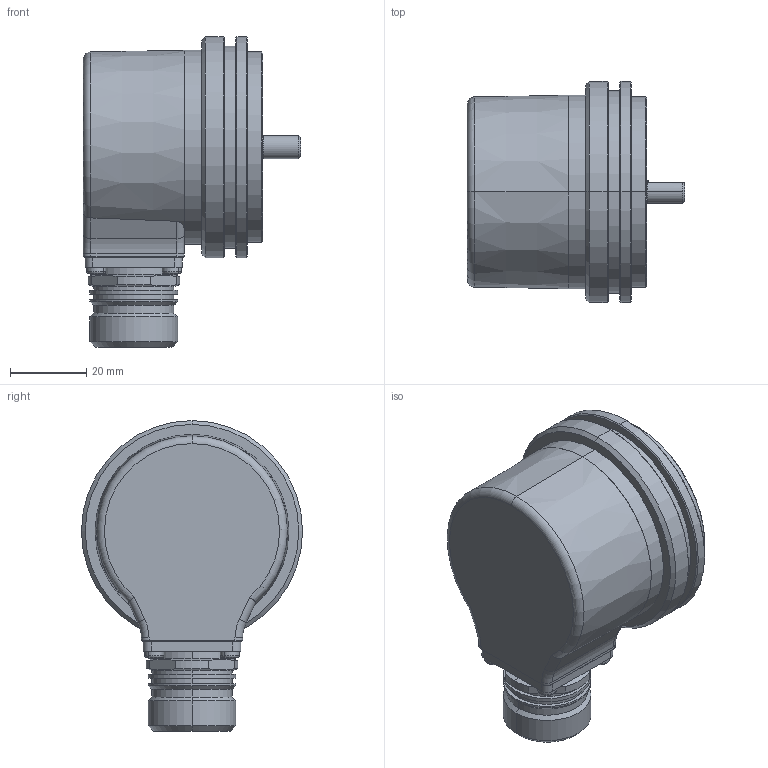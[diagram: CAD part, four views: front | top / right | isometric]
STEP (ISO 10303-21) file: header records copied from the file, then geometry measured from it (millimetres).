
FILE_DESCRIPTION (( 'STEP AP214' ), '1' );
FILE_NAME ('5000.A1X8.XXXX.STEP', '2010-02-16T08:49:23', ( 'admin' ), ( 'Fritz Kübler GmbH' ), 'SwSTEP 2.0', 'SolidWorks 2009', '' );
FILE_SCHEMA (( 'AUTOMOTIVE_DESIGN' ));
Length unit declared in the file: millimetre
Products named in the file (1): 5000.A1X8.XXXX
Bounding box: 57 x 58 x 81.5 mm (x, y, z)
Volume: 65867.9 mm3; surface area: 38663 mm2
Topology: 22 solids, 24 shells, 878 faces, 1924 edges, 1158 vertices
Faces by surface type: cylinder 388, plane 222, cone 149, torus 73, sphere 36, bspline 10
Entity records: 34329 total; most frequent: DIRECTION 4660, CARTESIAN_POINT 4517, ORIENTED_EDGE 3768, AXIS2_PLACEMENT_3D 1971, EDGE_CURVE 1884, VERTEX_POINT 1158, CIRCLE 1102, EDGE_LOOP 1026
